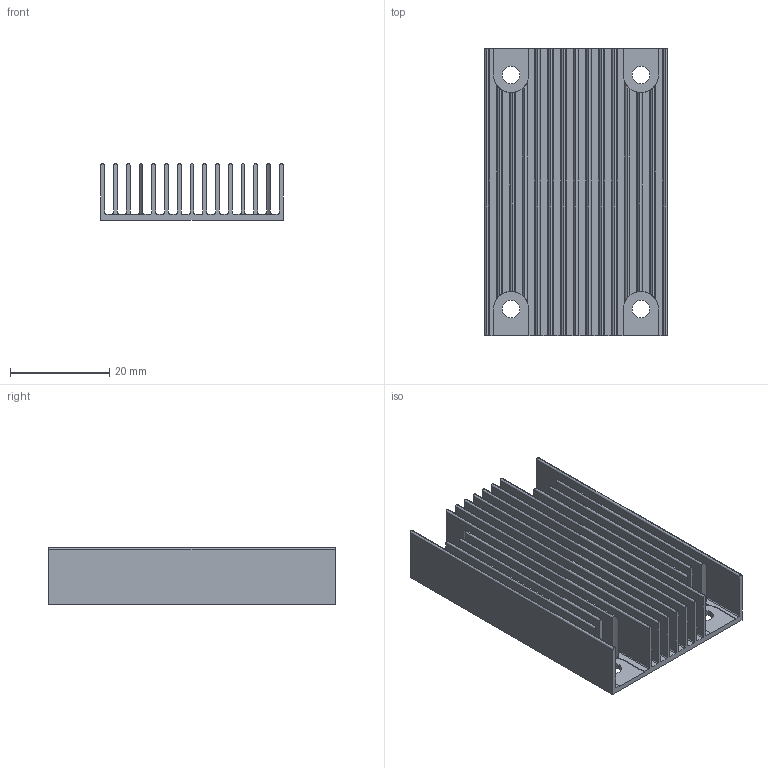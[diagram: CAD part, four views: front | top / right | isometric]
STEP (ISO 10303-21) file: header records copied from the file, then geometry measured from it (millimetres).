
FILE_DESCRIPTION (( 'STEP AP214' ), '1' );
FILE_NAME ('HS1568E_H.STEP', '2023-03-03T15:52:18', ( '' ), ( '' ), 'SwSTEP 2.0', 'SolidWorks 2020', '' );
FILE_SCHEMA (( 'AUTOMOTIVE_DESIGN' ));
Length unit declared in the file: inch
Products named in the file (1): HS1568E_H
Bounding box: 36.83 x 57.91 x 11.43 mm (x, y, z)
Volume: 8568 mm3; surface area: 20046.3 mm2
Topology: 1 solids, 1 shells, 129 faces, 381 edges, 254 vertices
Faces by surface type: cylinder 70, plane 59
Entity records: 4903 total; most frequent: CARTESIAN_POINT 1389, ORIENTED_EDGE 762, DIRECTION 697, EDGE_CURVE 381, VERTEX_POINT 254, AXIS2_PLACEMENT_3D 234, LINE 229, VECTOR 229
